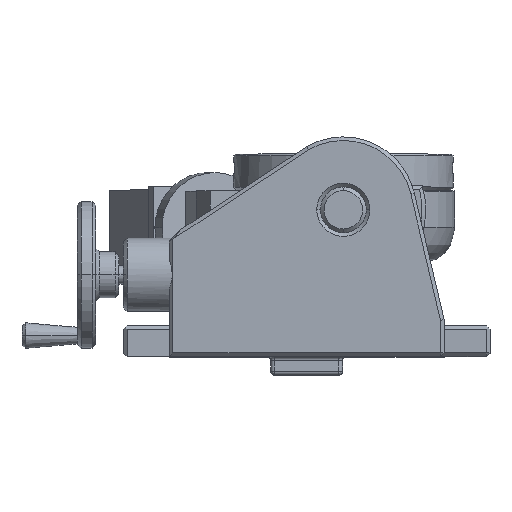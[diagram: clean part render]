
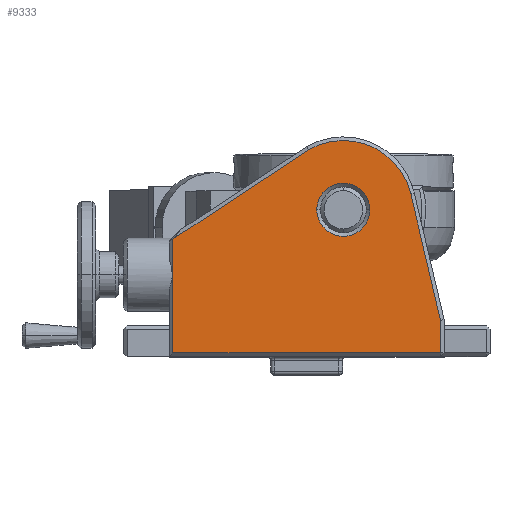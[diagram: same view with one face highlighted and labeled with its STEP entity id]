
A CAD part, top view. The second image highlights one B-rep face of the part: STEP entity #9333.
In plain terms, the highlighted planar face has unit normal (0, 0, 1).
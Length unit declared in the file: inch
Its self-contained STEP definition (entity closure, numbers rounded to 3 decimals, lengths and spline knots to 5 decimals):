
#73 = CARTESIAN_POINT ( 'NONE',  ( 1., 4., 5.25 ) ) ;
#74 = DIRECTION ( 'NONE',  ( 0., 0., 1. ) ) ;
#75 = DIRECTION ( 'NONE',  ( 1., 0., 0. ) ) ;
#1095 = VERTEX_POINT ( 'NONE', #3531 ) ;
#1097 = VERTEX_POINT ( 'NONE', #3529 ) ;
#2344 = VERTEX_POINT ( 'NONE', #11080 ) ;
#2351 = VERTEX_POINT ( 'NONE', #11087 ) ;
#2570 = AXIS2_PLACEMENT_3D ( 'NONE', #10969, #10966, #10973 ) ;
#2798 = AXIS2_PLACEMENT_3D ( 'NONE', #73, #74, #75 ) ;
#3046 = VERTEX_POINT ( 'NONE', #11150 ) ;
#3047 = VERTEX_POINT ( 'NONE', #11151 ) ;
#3051 = VERTEX_POINT ( 'NONE', #11155 ) ;
#3053 = VERTEX_POINT ( 'NONE', #11157 ) ;
#3529 = CARTESIAN_POINT ( 'NONE',  ( 0.275, 4., 5.25 ) ) ;
#3531 = CARTESIAN_POINT ( 'NONE',  ( 1.725, 4., 5.25 ) ) ;
#3852 = AXIS2_PLACEMENT_3D ( 'NONE', #5066, #5067, #5068 ) ;
#3888 = AXIS2_PLACEMENT_3D ( 'NONE', #5958, #5959, #5960 ) ;
#4095 = EDGE_CURVE ( 'NONE', #3053, #3046, #5392, .T. ) ;
#4101 = EDGE_CURVE ( 'NONE', #3047, #3053, #5396, .T. ) ;
#4105 = EDGE_CURVE ( 'NONE', #3051, #3047, #5411, .T. ) ;
#4311 = EDGE_CURVE ( 'NONE', #2351, #3051, #8382, .T. ) ;
#4320 = EDGE_CURVE ( 'NONE', #3046, #2344, #8400, .T. ) ;
#4322 = EDGE_CURVE ( 'NONE', #1095, #1097, #8391, .T. ) ;
#4324 = EDGE_CURVE ( 'NONE', #2344, #2351, #8407, .T. ) ;
#4730 = EDGE_CURVE ( 'NONE', #1097, #1095, #7739, .T. ) ;
#5037 = CARTESIAN_POINT ( 'NONE',  ( 0., 0.1, 5.25 ) ) ;
#5044 = DIRECTION ( 'NONE',  ( 1., 0., 0. ) ) ;
#5060 = CARTESIAN_POINT ( 'NONE',  ( 0.05264, 5.63523, 5.25 ) ) ;
#5061 = DIRECTION ( 'NONE',  ( -0.835, -0.55, 0. ) ) ;
#5064 = CARTESIAN_POINT ( 'NONE',  ( -3.65, 1.59806, 5.25 ) ) ;
#5065 = DIRECTION ( 'NONE',  ( 0., -1., 0. ) ) ;
#5066 = CARTESIAN_POINT ( 'NONE',  ( 1., 4., 5.25 ) ) ;
#5067 = DIRECTION ( 'NONE',  ( 0., 0., 1. ) ) ;
#5068 = DIRECTION ( 'NONE',  ( 1., 0., 0. ) ) ;
#5392 = CIRCLE ( 'NONE', #3888, 1.88983 ) ;
#5396 = LINE ( 'NONE', #5966, #5406 ) ;
#5406 = VECTOR ( 'NONE', #5971, 39.37008 ) ;
#5411 = LINE ( 'NONE', #5978, #5414 ) ;
#5414 = VECTOR ( 'NONE', #5979, 39.37008 ) ;
#5958 = CARTESIAN_POINT ( 'NONE',  ( 1., 4., 5.25 ) ) ;
#5959 = DIRECTION ( 'NONE',  ( 0., 0., 1. ) ) ;
#5960 = DIRECTION ( 'NONE',  ( -1., 0., 0. ) ) ;
#5966 = CARTESIAN_POINT ( 'NONE',  ( 3.65, 0.98839, 5.25 ) ) ;
#5971 = DIRECTION ( 'NONE',  ( -0.229, 0.973, 0. ) ) ;
#5978 = CARTESIAN_POINT ( 'NONE',  ( 3.65, 3.01228, 5.25 ) ) ;
#5979 = DIRECTION ( 'NONE',  ( 0., 1., 0. ) ) ;
#7440 = EDGE_LOOP ( 'NONE', ( #9929, #9928, #9927, #9926, #9925, #9924 ) ) ;
#7441 = EDGE_LOOP ( 'NONE', ( #9931, #9930 ) ) ;
#7739 = CIRCLE ( 'NONE', #2798, 0.725 ) ;
#8265 = FACE_BOUND ( 'NONE', #7441, .T. ) ;
#8267 = FACE_OUTER_BOUND ( 'NONE', #7440, .T. ) ;
#8382 = LINE ( 'NONE', #5037, #8386 ) ;
#8386 = VECTOR ( 'NONE', #5044, 39.37008 ) ;
#8391 = CIRCLE ( 'NONE', #3852, 0.725 ) ;
#8400 = LINE ( 'NONE', #5060, #8403 ) ;
#8403 = VECTOR ( 'NONE', #5061, 39.37008 ) ;
#8407 = LINE ( 'NONE', #5064, #8409 ) ;
#8409 = VECTOR ( 'NONE', #5065, 39.37008 ) ;
#9333 = ADVANCED_FACE ( 'NONE', ( #8265, #8267 ), #10971, .T. ) ;
#9924 = ORIENTED_EDGE ( 'NONE', *, *, #4320, .T. ) ;
#9925 = ORIENTED_EDGE ( 'NONE', *, *, #4095, .T. ) ;
#9926 = ORIENTED_EDGE ( 'NONE', *, *, #4101, .T. ) ;
#9927 = ORIENTED_EDGE ( 'NONE', *, *, #4105, .T. ) ;
#9928 = ORIENTED_EDGE ( 'NONE', *, *, #4311, .T. ) ;
#9929 = ORIENTED_EDGE ( 'NONE', *, *, #4324, .T. ) ;
#9930 = ORIENTED_EDGE ( 'NONE', *, *, #4730, .F. ) ;
#9931 = ORIENTED_EDGE ( 'NONE', *, *, #4322, .F. ) ;
#10966 = DIRECTION ( 'NONE',  ( 0., 0., 1. ) ) ;
#10969 = CARTESIAN_POINT ( 'NONE',  ( -3.65, 0.1, 5.25 ) ) ;
#10971 = PLANE ( 'NONE',  #2570 ) ;
#10973 = DIRECTION ( 'NONE',  ( 1., 0., 0. ) ) ;
#11080 = CARTESIAN_POINT ( 'NONE',  ( -3.65, 3.19613, 5.25 ) ) ;
#11087 = CARTESIAN_POINT ( 'NONE',  ( -3.65, 0.1, 5.25 ) ) ;
#11150 = CARTESIAN_POINT ( 'NONE',  ( 0.05264, 5.63523, 5.25 ) ) ;
#11151 = CARTESIAN_POINT ( 'NONE',  ( 3.65, 0.98839, 5.25 ) ) ;
#11155 = CARTESIAN_POINT ( 'NONE',  ( 3.65, 0.1, 5.25 ) ) ;
#11157 = CARTESIAN_POINT ( 'NONE',  ( 2.8396, 4.43282, 5.25 ) ) ;
